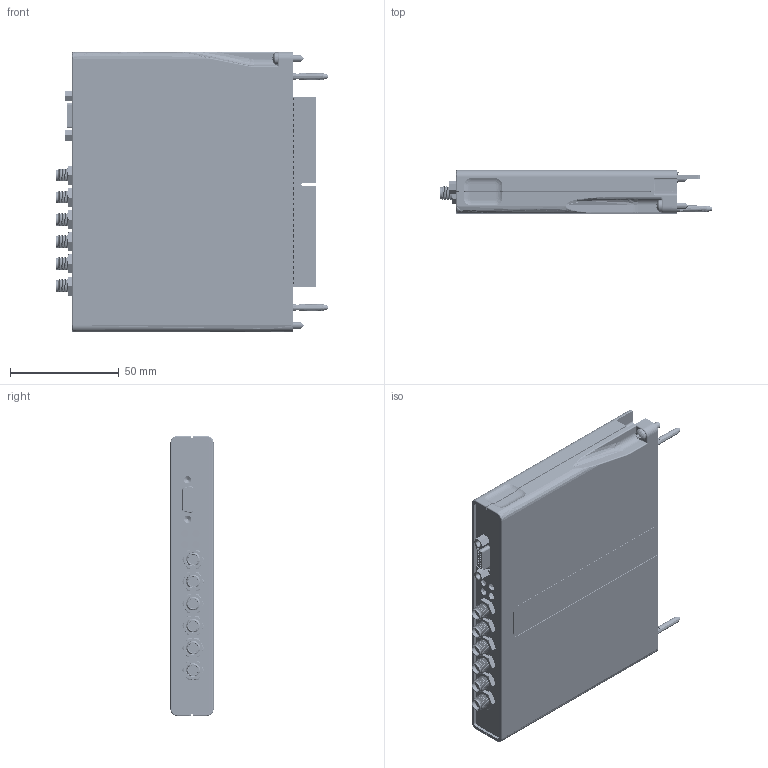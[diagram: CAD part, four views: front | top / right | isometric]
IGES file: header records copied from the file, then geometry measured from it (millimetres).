
Start section:  PTC IGES file: cu_ni-5761.igs
Global section: file name: cu_ni-5761.igs; native system: Pro/ENGINEER by Parametric Technology Corporation; preprocessor: 2011490; author: jjorden; organization: Unknown; date: 20130305.101900; units: inch
Bounding box: 124.97 x 19.81 x 128.68 mm (x, y, z)
Surface area: 112595.9 mm2 (no closed solid volume)
Topology: 0 solids, 0 shells, 3814 faces, 18520 edges, 18496 vertices
Faces by surface type: bspline 2278, revolution 1536
